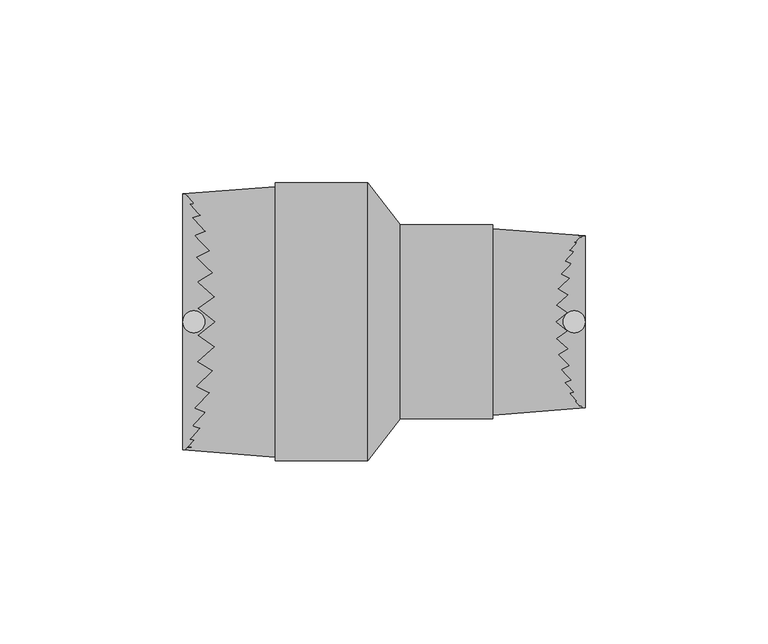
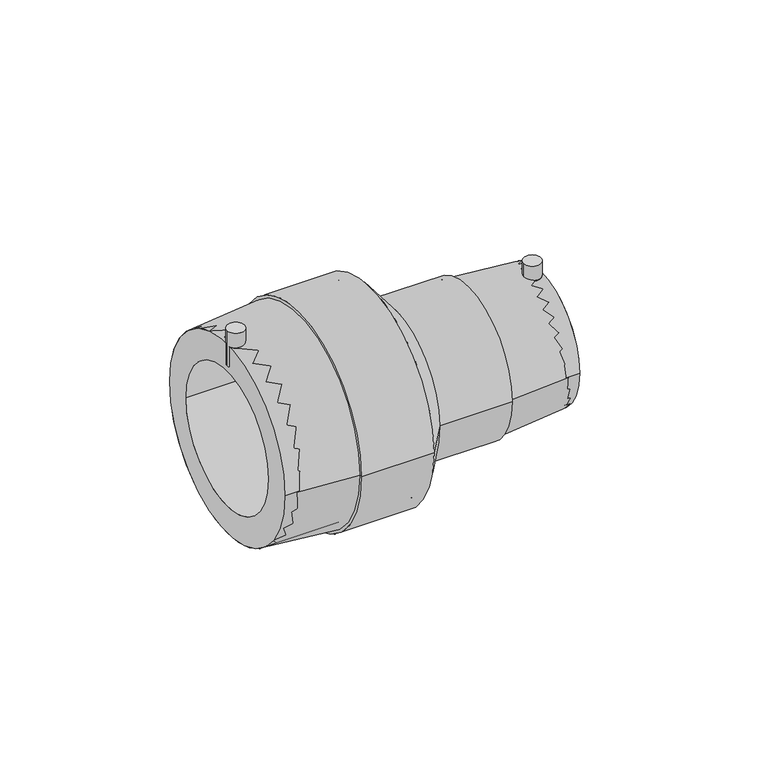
"""IFC4 building model written with IfcOpenShell, lengths in millimetres: pipe fitting geometry, EGB_VASEN_ PPR_Manguito reductor electrosoldable WXRD110 : Manguito reductor electrosoldable WXRD110."""

from ifc_helpers import new_model, si_unit, point, frame, frame_2d, origin, origin_2d, place, context, project, spatial, polyline, circle_curve, trimmed, segment, composite_curve, outline, extrude, source, transform, mapped, element, save
from ifc_brep_helpers import plane_surface, cylinder_surface, revolved_surface, advanced_brep


def pipe_fitting_6d6052f1(model_context):
    return source(origin(), model_context, "Body", "SolidModel", [
        extrude(outline(composite_curve([segment(trimmed(circle_curve(frame_2d((52.0, 0.0)), 3.0), [point((49.0, 0.0))], [point((55.0, 0.0))], False, "CARTESIAN"), True, "CONTINUOUS"), segment(trimmed(circle_curve(frame_2d((52.0, 0.0)), 3.0), [point((55.0, 0.0))], [point((49.0, 0.0))], False, "CARTESIAN"), True, "CONTINUOUS")], self_intersect=False)), frame((0.0, 0.0, 18.0), z_axis=(0.0, 0.0, 1.0), x_axis=(1.0, 0.0, 0.0)), (0.0, 0.0, 1.0), 10.5),
        extrude(outline(composite_curve([segment(trimmed(circle_curve(frame_2d((-52.0, 0.0)), 3.0), [point((-55.0, 0.0))], [point((-49.0, 0.0))], False, "CARTESIAN"), True, "CONTINUOUS"), segment(trimmed(circle_curve(frame_2d((-52.0, 0.0)), 3.0), [point((-49.0, 0.0))], [point((-55.0, 0.0))], False, "CARTESIAN"), True, "CONTINUOUS")], self_intersect=False)), frame((0.0, 0.0, 27.0), z_axis=(0.0, 0.0, 1.0), x_axis=(1.0, 0.0, 0.0)), (0.0, 0.0, 1.0), 13.0),
        extrude(outline(composite_curve([segment(trimmed(circle_curve(origin_2d(), 23.5), [point((-23.5, 0.0))], [point((23.5, 0.0))], False, "CARTESIAN"), True, "CONTINUOUS"), segment(trimmed(circle_curve(origin_2d(), 23.5), [point((23.5, 0.0))], [point((-23.5, 0.0))], False, "CARTESIAN"), True, "CONTINUOUS")], self_intersect=False), holes=[composite_curve([segment(trimmed(circle_curve(origin_2d(), 16.0), [point((-16.0, 0.0))], [point((16.0, 0.0))], True, "CARTESIAN"), True, "CONTINUOUS"), segment(trimmed(circle_curve(origin_2d(), 16.0), [point((16.0, 0.0))], [point((-16.0, 0.0))], True, "CARTESIAN"), True, "CONTINUOUS")], self_intersect=False)]), frame((4.4, 0.0, 0.0), z_axis=(1.0, 0.0, 0.0), x_axis=(0.0, 1.0, 0.0)), (0.0, 0.0, 1.0), 50.6),
        extrude(outline(composite_curve([segment(trimmed(circle_curve(origin_2d(), 35.0), [point((-35.0, 0.0))], [point((35.0, 0.0))], False, "CARTESIAN"), True, "CONTINUOUS"), segment(trimmed(circle_curve(origin_2d(), 35.0), [point((35.0, 0.0))], [point((-35.0, 0.0))], False, "CARTESIAN"), True, "CONTINUOUS")], self_intersect=False), holes=[composite_curve([segment(trimmed(circle_curve(origin_2d(), 25.0), [point((-25.0, 0.0))], [point((25.0, 0.0))], True, "CARTESIAN"), True, "CONTINUOUS"), segment(trimmed(circle_curve(origin_2d(), 25.0), [point((25.0, 0.0))], [point((-25.0, 0.0))], True, "CARTESIAN"), True, "CONTINUOUS")], self_intersect=False)]), frame((-55.0, 0.0, 0.0), z_axis=(1.0, 0.0, 0.0), x_axis=(0.0, 1.0, 0.0)), (0.0, 0.0, 1.0), 50.6),
        advanced_brep(
        [(4.4, -23.5, 0.0), (4.4, 23.5, 0.0), (-4.4, -35.0, 0.0), (-4.4, 35.0, 0.0)],
        [
            (0, 1, circle_curve(frame((4.4, 0.0, 0.0), z_axis=(1.0, 0.0, 0.0), x_axis=(0.0, -1.0, 0.0)), 23.5)),
            (1, 0, circle_curve(frame((4.4, 0.0, 0.0), z_axis=(1.0, 0.0, 0.0), x_axis=(0.0, 1.0, 0.0)), 23.5)),
            (2, 3, circle_curve(frame((-4.4, 0.0, 0.0), z_axis=(-1.0, 0.0, 0.0), x_axis=(0.0, 1.0, 0.0)), 35.0)),
            (3, 2, circle_curve(frame((-4.4, 0.0, 0.0), z_axis=(-1.0, 0.0, 0.0), x_axis=(0.0, -1.0, 0.0)), 35.0)),
            (3, 1),
            (0, 2),
        ],
        [
            plane_surface(frame((4.4, 0.0, 0.0), z_axis=(1.0, 0.0, 0.0), x_axis=(0.0, 0.0, -1.0))),
            plane_surface(frame((-4.4, 0.0, 0.0), z_axis=(-1.0, 0.0, 0.0), x_axis=(0.0, 0.0, -1.0))),
            revolved_surface(polyline([(4.399999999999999, -23.500000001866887, 0.0), (-4.399999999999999, -35.0, 0.0)]), (22.3826087, 0.0, 0.0), (-1.0, 0.0, 0.0)),
            revolved_surface(polyline([(4.399999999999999, 23.500000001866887, 0.0), (-4.399999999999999, 35.0, 0.0)]), (22.3826087, 0.0, 0.0), (-1.0, 0.0, 0.0)),
        ],
        [
            (0, [[1, 2]]),
            (1, [[3, 4]]),
            (2, [[-4, 5, -1, 6]]),
            (3, [[-3, -6, -2, -5]]),
        ],
    ),
        advanced_brep(
        [(4.4, -23.5, 0.0), (4.4, 23.5, 0.0), (-4.4, 35.0, 0.0), (-4.4, -35.0, 0.0), (55.0, -23.5, 0.0), (55.0, 23.5, 0.0), (29.7, -25.5, 0.0), (29.7, 25.5, 0.0), (29.7, -26.5, 0.0), (29.7, 26.5, 0.0), (4.4, -26.5, 0.0), (4.4, 26.5, 0.0), (-4.4, -38.0, 0.0), (-4.4, 38.0, 0.0), (-29.7, -38.0, 0.0), (-29.7, 38.0, 0.0), (-29.7, -37.0, 0.0), (-29.7, 37.0, 0.0), (-55.0, -35.0, 0.0), (-55.0, 35.0, 0.0)],
        [
            (0, 1, circle_curve(frame((4.4, 0.0, 0.0), z_axis=(1.0, 0.0, 0.0), x_axis=(0.0, 1.0, 0.0)), 23.5)),
            (1, 2),
            (2, 3, circle_curve(frame((-4.4, 0.0, 0.0), z_axis=(-1.0, 0.0, 0.0), x_axis=(0.0, 1.0, 0.0)), 35.0)),
            (3, 0),
            (1, 0, circle_curve(frame((4.4, 0.0, 0.0), z_axis=(1.0, 0.0, 0.0), x_axis=(0.0, 1.0, 0.0)), 23.5)),
            (3, 2, circle_curve(frame((-4.4, 0.0, 0.0), z_axis=(-1.0, 0.0, 0.0), x_axis=(0.0, 1.0, 0.0)), 35.0)),
            (4, 5, circle_curve(frame((55.0, 0.0, 0.0), z_axis=(1.0, 0.0, 0.0), x_axis=(0.0, 1.0, 0.0)), 23.5)),
            (5, 1),
            (0, 4),
            (5, 4, circle_curve(frame((55.0, 0.0, 0.0), z_axis=(1.0, 0.0, 0.0), x_axis=(0.0, 1.0, 0.0)), 23.5)),
            (6, 7, circle_curve(frame((29.7, 0.0, 0.0), z_axis=(1.0, 0.0, 0.0), x_axis=(0.0, 1.0, 0.0)), 25.5)),
            (7, 5),
            (4, 6),
            (7, 6, circle_curve(frame((29.7, 0.0, 0.0), z_axis=(1.0, 0.0, 0.0), x_axis=(0.0, 1.0, 0.0)), 25.5)),
            (8, 9, circle_curve(frame((29.7, 0.0, 0.0), z_axis=(1.0, 0.0, 0.0), x_axis=(0.0, 1.0, 0.0)), 26.5)),
            (9, 7),
            (6, 8),
            (9, 8, circle_curve(frame((29.7, 0.0, 0.0), z_axis=(1.0, 0.0, 0.0), x_axis=(0.0, 1.0, 0.0)), 26.5)),
            (10, 11, circle_curve(frame((4.4, 0.0, 0.0), z_axis=(1.0, 0.0, 0.0), x_axis=(0.0, 1.0, 0.0)), 26.5)),
            (11, 9),
            (8, 10),
            (11, 10, circle_curve(frame((4.4, 0.0, 0.0), z_axis=(1.0, 0.0, 0.0), x_axis=(0.0, 1.0, 0.0)), 26.5)),
            (12, 13, circle_curve(frame((-4.4, 0.0, 0.0), z_axis=(1.0, 0.0, 0.0), x_axis=(0.0, 1.0, 0.0)), 38.0)),
            (13, 11),
            (10, 12),
            (13, 12, circle_curve(frame((-4.4, 0.0, 0.0), z_axis=(1.0, 0.0, 0.0), x_axis=(0.0, 1.0, 0.0)), 38.0)),
            (14, 15, circle_curve(frame((-29.7, 0.0, 0.0), z_axis=(1.0, 0.0, 0.0), x_axis=(0.0, 1.0, 0.0)), 38.0)),
            (15, 13),
            (12, 14),
            (15, 14, circle_curve(frame((-29.7, 0.0, 0.0), z_axis=(1.0, 0.0, 0.0), x_axis=(0.0, 1.0, 0.0)), 38.0)),
            (16, 17, circle_curve(frame((-29.7, 0.0, 0.0), z_axis=(1.0, 0.0, 0.0), x_axis=(0.0, 1.0, 0.0)), 37.0)),
            (17, 15),
            (14, 16),
            (17, 16, circle_curve(frame((-29.7, 0.0, 0.0), z_axis=(1.0, 0.0, 0.0), x_axis=(0.0, 1.0, 0.0)), 37.0)),
            (18, 19, circle_curve(frame((-55.0, 0.0, 0.0), z_axis=(1.0, 0.0, 0.0), x_axis=(0.0, 1.0, 0.0)), 35.0)),
            (19, 17),
            (16, 18),
            (19, 18, circle_curve(frame((-55.0, 0.0, 0.0), z_axis=(1.0, 0.0, 0.0), x_axis=(0.0, 1.0, 0.0)), 35.0)),
            (2, 19),
            (18, 3),
        ],
        [
            revolved_surface(polyline([(-4.4, 35.0, 0.0), (4.4, 23.5, 0.0)]), (-90.0, 0.0, 0.0), (-1.0, 0.0, 0.0)),
            revolved_surface(polyline([(4.400000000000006, 23.5, 0.0), (55.0, 23.5, 0.0)]), (-90.0, 0.0, 0.0), (-1.0, 0.0, 0.0)),
            revolved_surface(polyline([(55.0, 23.5, 0.0), (29.7, 25.5, 0.0)]), (-90.0, 0.0, 0.0), (-1.0, 0.0, 0.0)),
            plane_surface(frame((29.7, 0.0, 0.0), z_axis=(1.0, 0.0, 0.0), x_axis=(0.0, 1.0, 0.0))),
            cylinder_surface(frame((-90.0, 0.0, 0.0), z_axis=(-1.0, 0.0, 0.0), x_axis=(0.0, 1.0, 0.0)), 26.5),
            revolved_surface(polyline([(4.4, 26.5, 0.0), (-4.4, 38.0, 0.0)]), (-90.0, 0.0, 0.0), (-1.0, 0.0, 0.0)),
            cylinder_surface(frame((-90.0, 0.0, 0.0), z_axis=(-1.0, 0.0, 0.0), x_axis=(0.0, 1.0, 0.0)), 38.0),
            plane_surface(frame((-29.7, 0.0, 0.0), z_axis=(-1.0, 0.0, 0.0), x_axis=(0.0, 1.0, 0.0))),
            revolved_surface(polyline([(-29.7, 37.0, 0.0), (-55.0, 35.0, 0.0)]), (-90.0, 0.0, 0.0), (-1.0, 0.0, 0.0)),
            revolved_surface(polyline([(-55.0, 35.0, 0.0), (-4.400000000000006, 35.0, 0.0)]), (-90.0, 0.0, 0.0), (-1.0, 0.0, 0.0)),
        ],
        [
            (0, [[1, 2, 3, 4]]),
            (0, [[5, -4, 6, -2]]),
            (1, [[7, 8, -1, 9]]),
            (1, [[10, -9, -5, -8]]),
            (2, [[11, 12, -7, 13]]),
            (2, [[14, -13, -10, -12]]),
            (3, [[15, 16, -11, 17]]),
            (3, [[18, -17, -14, -16]]),
            (4, [[19, 20, -15, 21]]),
            (4, [[22, -21, -18, -20]]),
            (5, [[23, 24, -19, 25]]),
            (5, [[26, -25, -22, -24]]),
            (6, [[27, 28, -23, 29]]),
            (6, [[30, -29, -26, -28]]),
            (7, [[31, 32, -27, 33]]),
            (7, [[34, -33, -30, -32]]),
            (8, [[35, 36, -31, 37]]),
            (8, [[38, -37, -34, -36]]),
            (9, [[-3, 39, -35, 40]]),
            (9, [[-6, -40, -38, -39]]),
        ],
    ),
    ])


if __name__ == "__main__":
    model = new_model("IFC4")
    model_context = context("Model", 3, world=origin())
    ifc_project = project(units=[si_unit("LENGTHUNIT", "METRE", prefix="MILLI")], contexts=[model_context])
    site = spatial("IfcSite", under=ifc_project)
    building = spatial("IfcBuilding", under=site)
    placement = place(None, origin())
    pipe_fitting_shape = pipe_fitting_6d6052f1(model_context)
    element("IfcPipeFitting", 1, ObjectType="EGB_VASEN_ PPR_Manguito reductor electrosoldable WXRD110 : Manguito reductor electrosoldable WXRD110", at=placement, inside=building, context=model_context, shape_type="MappedRepresentation", body=[
        mapped(pipe_fitting_shape, transform((0.0, 0.0, 0.0), x_axis=(1.0, 0.0, 0.0), y_axis=(0.0, 1.0, 0.0), z_axis=(0.0, 0.0, 1.0))),
    ])
    save(model, "model.ifc")
